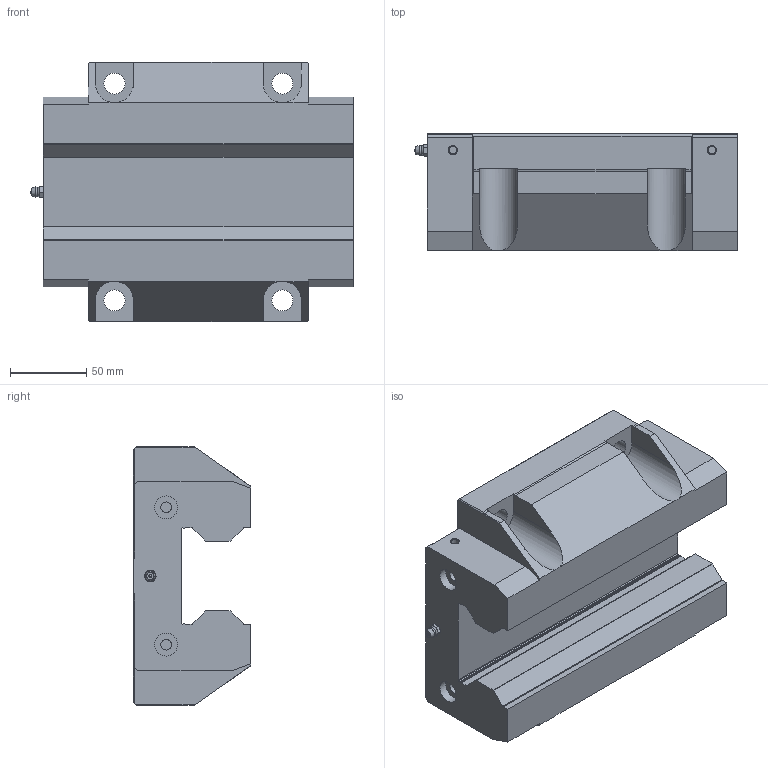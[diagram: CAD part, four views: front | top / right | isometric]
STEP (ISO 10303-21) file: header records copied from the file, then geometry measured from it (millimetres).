
FILE_DESCRIPTION(/* description */ ('STEP AP214'),/* implementation_level */ '2;1');
FILE_NAME(/* name */ 'ERG65P6CC1N0______CAD_NO_(A-MT61)',/* time_stamp */ '2026-05-18T11:17:37+02:00',/* author */ ('License CC BY-ND 4.0'),/* organization */ ('CADENAS'),/* preprocessor_version */ 'ST-DEVELOPER v20',/* originating_system */ 'PARTsolutions',/* authorisation */ ' ');
FILE_SCHEMA (('AUTOMOTIVE_DESIGN {1 0 10303 214 3 1 1}'));
Length unit declared in the file: millimetre
Products named in the file (3): ERG65P6CC1N0______CAD_NO_(A-MT61); ERG65C01 Slider; hsr_ftht_A-M6F_grease_nipple_joint
Assembly tree (2 placements, depth 2):
  ERG65P6CC1N0______CAD_NO_(A-MT61)
    ERG65C01 Slider
    hsr_ftht_A-M6F_grease_nipple_joint
Bounding box: 211.41 x 77 x 170 mm (x, y, z)
Volume: 1687582 mm3; surface area: 144887.4 mm2
Topology: 2 solids, 2 shells, 188 faces, 477 edges, 312 vertices
Faces by surface type: plane 113, cylinder 51, cone 21, sphere 2, torus 1
Full cylindrical faces by diameter (mm): 4.917 x6, 6 x1, 7 x4, 10.2 x2, 13.835 x6, 15 x4
Entity records: 5527 total; most frequent: CARTESIAN_POINT 1005, DIRECTION 924, ORIENTED_EDGE 864, EDGE_CURVE 432, AXIS2_PLACEMENT_3D 325, VERTEX_POINT 308, LINE 274, VECTOR 274
